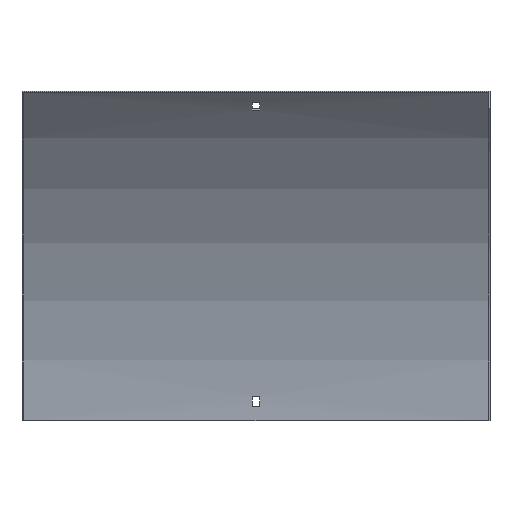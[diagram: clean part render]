
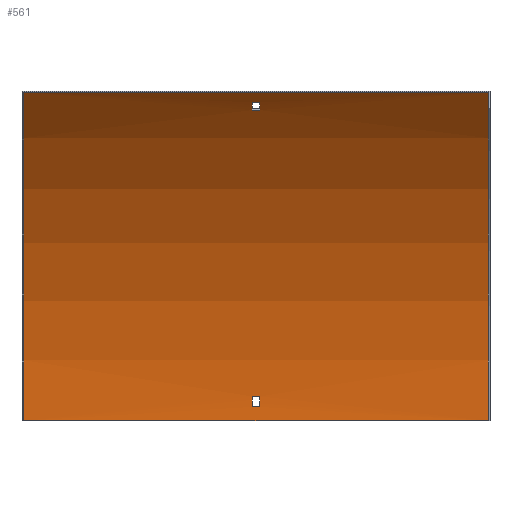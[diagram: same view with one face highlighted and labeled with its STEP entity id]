
A CAD part, front view. The second image highlights one B-rep face of the part: STEP entity #561.
In plain terms, the highlighted cylindrical face has radius 400 mm (diameter 800 mm), a partial arc.
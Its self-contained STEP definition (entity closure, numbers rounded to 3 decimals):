
#2 = EDGE_LOOP ( 'NONE', ( #247, #491, #229, #382 ) ) ;
#13 = ORIENTED_EDGE ( 'NONE', *, *, #210, .F. ) ;
#14 = VECTOR ( 'NONE', #149, 1000. ) ;
#25 = EDGE_CURVE ( 'NONE', #400, #429, #581, .T. ) ;
#27 = DIRECTION ( 'NONE',  ( 0., 0., 1. ) ) ;
#34 = DIRECTION ( 'NONE',  ( 0., 0., 1. ) ) ;
#39 = FACE_BOUND ( 'NONE', #2, .T. ) ;
#41 = CARTESIAN_POINT ( 'NONE',  ( 3.25, -401.5, 0. ) ) ;
#43 = LINE ( 'NONE', #554, #49 ) ;
#49 = VECTOR ( 'NONE', #255, 1000. ) ;
#51 = CARTESIAN_POINT ( 'NONE',  ( 200., -118.657, 282.843 ) ) ;
#58 = EDGE_CURVE ( 'NONE', #91, #311, #119, .T. ) ;
#59 = ORIENTED_EDGE ( 'NONE', *, *, #531, .F. ) ;
#79 = DIRECTION ( 'NONE',  ( -1., 0., 0. ) ) ;
#81 = LINE ( 'NONE', #443, #111 ) ;
#89 = CARTESIAN_POINT ( 'NONE',  ( 200., -1.5, 0. ) ) ;
#91 = VERTEX_POINT ( 'NONE', #556 ) ;
#99 = VERTEX_POINT ( 'NONE', #133 ) ;
#107 = DIRECTION ( 'NONE',  ( 1., 0., 0. ) ) ;
#111 = VECTOR ( 'NONE', #79, 1000. ) ;
#113 = ORIENTED_EDGE ( 'NONE', *, *, #25, .T. ) ;
#119 = CIRCLE ( 'NONE', #590, 400. ) ;
#121 = EDGE_CURVE ( 'NONE', #141, #458, #498, .T. ) ;
#122 = CARTESIAN_POINT ( 'NONE',  ( -200., -118.657, 282.843 ) ) ;
#124 = CARTESIAN_POINT ( 'NONE',  ( -3.25, -401.5, 0. ) ) ;
#129 = EDGE_LOOP ( 'NONE', ( #13, #468, #113, #558 ) ) ;
#131 = CARTESIAN_POINT ( 'NONE',  ( 201.5, -401.5, 0. ) ) ;
#133 = CARTESIAN_POINT ( 'NONE',  ( -200., -1.5, 0. ) ) ;
#141 = VERTEX_POINT ( 'NONE', #162 ) ;
#149 = DIRECTION ( 'NONE',  ( -1., 0., 0. ) ) ;
#154 = CIRCLE ( 'NONE', #479, 400. ) ;
#155 = VERTEX_POINT ( 'NONE', #122 ) ;
#162 = CARTESIAN_POINT ( 'NONE',  ( 3.25, -104.198, 267.603 ) ) ;
#170 = DIRECTION ( 'NONE',  ( 0., 0., -1. ) ) ;
#173 = CARTESIAN_POINT ( 'NONE',  ( 201.5, -104.198, 267.603 ) ) ;
#182 = DIRECTION ( 'NONE',  ( -1., 0., 0. ) ) ;
#186 = DIRECTION ( 'NONE',  ( 1., 0., 0. ) ) ;
#198 = CARTESIAN_POINT ( 'NONE',  ( -3.25, -2.052, 21. ) ) ;
#204 = LINE ( 'NONE', #335, #537 ) ;
#210 = EDGE_CURVE ( 'NONE', #99, #155, #260, .T. ) ;
#211 = ORIENTED_EDGE ( 'NONE', *, *, #228, .F. ) ;
#213 = VECTOR ( 'NONE', #343, 1000. ) ;
#221 = LINE ( 'NONE', #548, #213 ) ;
#222 = CYLINDRICAL_SURFACE ( 'NONE', #441, 400. ) ;
#226 = DIRECTION ( 'NONE',  ( 0., 0., -1. ) ) ;
#228 = EDGE_CURVE ( 'NONE', #311, #288, #221, .T. ) ;
#229 = ORIENTED_EDGE ( 'NONE', *, *, #426, .T. ) ;
#247 = ORIENTED_EDGE ( 'NONE', *, *, #121, .T. ) ;
#252 = AXIS2_PLACEMENT_3D ( 'NONE', #407, #279, #453 ) ;
#255 = DIRECTION ( 'NONE',  ( 1., 0., 0. ) ) ;
#257 = CARTESIAN_POINT ( 'NONE',  ( -200., -401.5, 0. ) ) ;
#260 = CIRCLE ( 'NONE', #425, 400. ) ;
#268 = EDGE_CURVE ( 'NONE', #330, #141, #486, .T. ) ;
#279 = DIRECTION ( 'NONE',  ( 1., 0., 0. ) ) ;
#281 = EDGE_CURVE ( 'NONE', #429, #155, #415, .T. ) ;
#282 = ORIENTED_EDGE ( 'NONE', *, *, #571, .F. ) ;
#288 = VERTEX_POINT ( 'NONE', #198 ) ;
#291 = CARTESIAN_POINT ( 'NONE',  ( 200., -118.657, 282.843 ) ) ;
#302 = DIRECTION ( 'NONE',  ( 0., 0., 1. ) ) ;
#303 = DIRECTION ( 'NONE',  ( -1., 0., 0. ) ) ;
#304 = DIRECTION ( 'NONE',  ( 1., 0., 0. ) ) ;
#308 = CARTESIAN_POINT ( 'NONE',  ( -3.25, -1.68, 12. ) ) ;
#309 = CARTESIAN_POINT ( 'NONE',  ( -3.25, -401.5, 0. ) ) ;
#311 = VERTEX_POINT ( 'NONE', #553 ) ;
#313 = DIRECTION ( 'NONE',  ( 1., 0., 0. ) ) ;
#330 = VERTEX_POINT ( 'NONE', #464 ) ;
#335 = CARTESIAN_POINT ( 'NONE',  ( 201.5, -110.299, 274.23 ) ) ;
#341 = VECTOR ( 'NONE', #460, 1000. ) ;
#343 = DIRECTION ( 'NONE',  ( -1., 0., 0. ) ) ;
#348 = AXIS2_PLACEMENT_3D ( 'NONE', #309, #303, #34 ) ;
#351 = VERTEX_POINT ( 'NONE', #502 ) ;
#382 = ORIENTED_EDGE ( 'NONE', *, *, #268, .T. ) ;
#383 = CIRCLE ( 'NONE', #348, 400. ) ;
#388 = AXIS2_PLACEMENT_3D ( 'NONE', #535, #182, #302 ) ;
#396 = ORIENTED_EDGE ( 'NONE', *, *, #58, .F. ) ;
#400 = VERTEX_POINT ( 'NONE', #89 ) ;
#407 = CARTESIAN_POINT ( 'NONE',  ( 200., -401.5, 0. ) ) ;
#408 = FACE_OUTER_BOUND ( 'NONE', #129, .T. ) ;
#415 = LINE ( 'NONE', #51, #341 ) ;
#425 = AXIS2_PLACEMENT_3D ( 'NONE', #257, #313, #170 ) ;
#426 = EDGE_CURVE ( 'NONE', #351, #330, #204, .T. ) ;
#429 = VERTEX_POINT ( 'NONE', #291 ) ;
#441 = AXIS2_PLACEMENT_3D ( 'NONE', #131, #539, #27 ) ;
#443 = CARTESIAN_POINT ( 'NONE',  ( 200., -1.5, 0. ) ) ;
#445 = CARTESIAN_POINT ( 'NONE',  ( -3.25, -104.198, 267.603 ) ) ;
#448 = FACE_BOUND ( 'NONE', #465, .T. ) ;
#453 = DIRECTION ( 'NONE',  ( 0., 0., -1. ) ) ;
#458 = VERTEX_POINT ( 'NONE', #445 ) ;
#460 = DIRECTION ( 'NONE',  ( -1., 0., 0. ) ) ;
#464 = CARTESIAN_POINT ( 'NONE',  ( 3.25, -110.299, 274.23 ) ) ;
#465 = EDGE_LOOP ( 'NONE', ( #282, #211, #396, #59 ) ) ;
#468 = ORIENTED_EDGE ( 'NONE', *, *, #552, .F. ) ;
#473 = VERTEX_POINT ( 'NONE', #308 ) ;
#479 = AXIS2_PLACEMENT_3D ( 'NONE', #124, #304, #485 ) ;
#485 = DIRECTION ( 'NONE',  ( 0., 0., -1. ) ) ;
#486 = CIRCLE ( 'NONE', #388, 400. ) ;
#491 = ORIENTED_EDGE ( 'NONE', *, *, #517, .T. ) ;
#498 = LINE ( 'NONE', #173, #14 ) ;
#502 = CARTESIAN_POINT ( 'NONE',  ( -3.25, -110.299, 274.23 ) ) ;
#517 = EDGE_CURVE ( 'NONE', #458, #351, #154, .T. ) ;
#531 = EDGE_CURVE ( 'NONE', #473, #91, #43, .T. ) ;
#535 = CARTESIAN_POINT ( 'NONE',  ( 3.25, -401.5, 0. ) ) ;
#537 = VECTOR ( 'NONE', #107, 1000. ) ;
#539 = DIRECTION ( 'NONE',  ( -1., 0., 0. ) ) ;
#548 = CARTESIAN_POINT ( 'NONE',  ( 201.5, -2.052, 21. ) ) ;
#552 = EDGE_CURVE ( 'NONE', #400, #99, #81, .T. ) ;
#553 = CARTESIAN_POINT ( 'NONE',  ( 3.25, -2.052, 21. ) ) ;
#554 = CARTESIAN_POINT ( 'NONE',  ( 201.5, -1.68, 12. ) ) ;
#556 = CARTESIAN_POINT ( 'NONE',  ( 3.25, -1.68, 12. ) ) ;
#558 = ORIENTED_EDGE ( 'NONE', *, *, #281, .T. ) ;
#561 = ADVANCED_FACE ( 'NONE', ( #448, #408, #39 ), #222, .F. ) ;
#571 = EDGE_CURVE ( 'NONE', #288, #473, #383, .T. ) ;
#581 = CIRCLE ( 'NONE', #252, 400. ) ;
#590 = AXIS2_PLACEMENT_3D ( 'NONE', #41, #186, #226 ) ;
